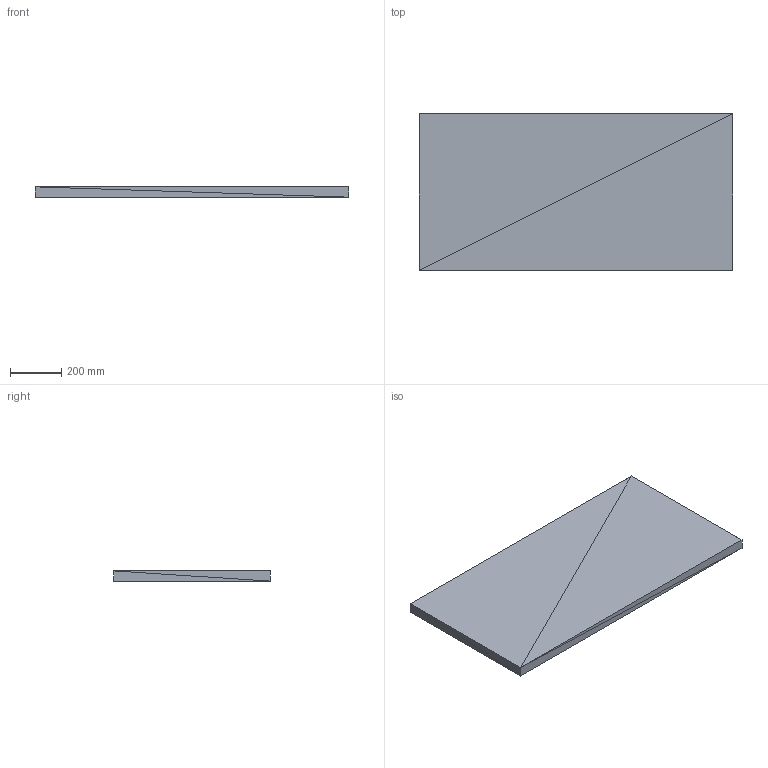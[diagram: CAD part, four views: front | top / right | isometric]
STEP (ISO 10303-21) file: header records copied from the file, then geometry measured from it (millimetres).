
FILE_DESCRIPTION(('ISINAC STEP AP214'),'2;1');
FILE_NAME('ISINAC_R.1220.610_40mm_ADHESIVO','2026-05-03T10:49:19',('ISINAC'),('www.isinac.com'),'ISINAC BIM Generator 1.0','','');
FILE_SCHEMA(('AUTOMOTIVE_DESIGN'));
Length unit declared in the file: millimetre
Products named in the file (1): ISINAC_R.1220.610_40mm_ADHESIVO
Bounding box: 1220 x 610 x 40 mm (x, y, z)
Surface area: 1634800 mm2 (no closed solid volume)
Topology: 0 solids, 12 shells, 12 faces, 36 edges, 36 vertices
Faces by surface type: plane 12
Entity records: 145 total; most frequent: CARTESIAN_POINT 48, DIRECTION 24, POLY_LOOP 12, FACE_OUTER_BOUND 12, AXIS2_PLACEMENT_3D 12, PLANE 12, FACE_SURFACE 12, CLOSED_SHELL 1
